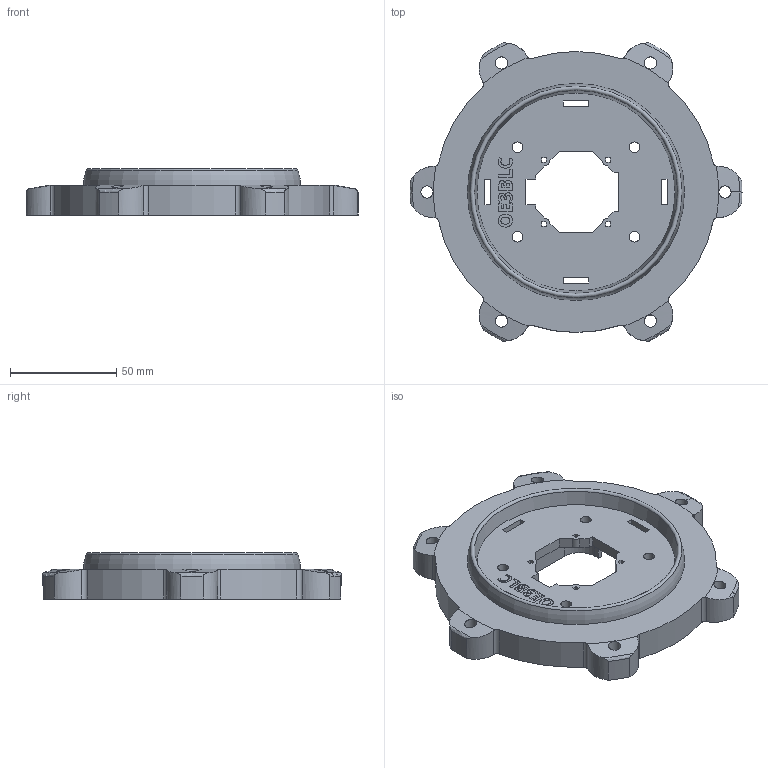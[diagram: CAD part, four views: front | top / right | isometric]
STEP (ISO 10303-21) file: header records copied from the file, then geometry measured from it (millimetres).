
FILE_DESCRIPTION(('FreeCAD Model'),'2;1');
FILE_NAME('Open CASCADE Shape Model','2023-07-24T20:01:20',(''),(''), 'Open CASCADE STEP processor 7.6','FreeCAD','Unknown');
FILE_SCHEMA(('AUTOMOTIVE_DESIGN { 1 0 10303 214 1 1 1 1 }'));
Length unit declared in the file: millimetre
Products named in the file (1): Kamerahalter
Bounding box: 155.98 x 140.05 x 21.68 mm (x, y, z)
Volume: 158104.6 mm3; surface area: 46510.6 mm2
Topology: 1 solids, 1 shells, 280 faces, 773 edges, 507 vertices
Faces by surface type: plane 130, cylinder 65, extrusion 63, cone 13, torus 9
Full cylindrical faces by diameter (mm): 5 x4, 5.7 x12
Entity records: 10491 total; most frequent: CARTESIAN_POINT 3434, ORIENTED_EDGE 1546, DIRECTION 1262, EDGE_CURVE 773, VECTOR 508, VERTEX_POINT 507, LINE 445, AXIS2_PLACEMENT_3D 377
